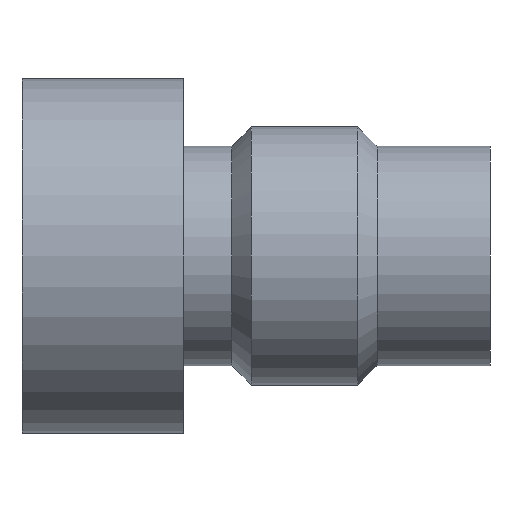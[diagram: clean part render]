
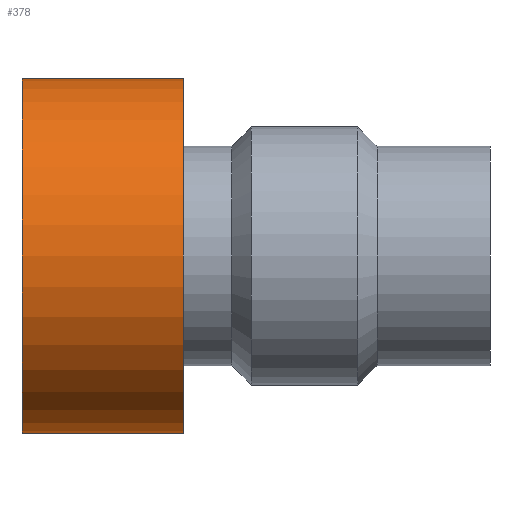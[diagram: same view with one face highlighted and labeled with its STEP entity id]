
A CAD part, front view. The second image highlights one B-rep face of the part: STEP entity #378.
In plain terms, the highlighted cylindrical face has radius 5.5 mm (diameter 11 mm), a partial arc.
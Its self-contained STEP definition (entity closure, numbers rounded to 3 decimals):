
#158 = FACE_OUTER_BOUND ( 'NONE', #671, .T. ) ;
#164 = AXIS2_PLACEMENT_3D ( 'NONE', #1194, #1195, #1196 ) ;
#165 = CYLINDRICAL_SURFACE ( 'NONE', #164, 5.5 ) ;
#217 = AXIS2_PLACEMENT_3D ( 'NONE', #1298, #1299, #1300 ) ;
#220 = VECTOR ( 'NONE', #1286, 1000. ) ;
#222 = AXIS2_PLACEMENT_3D ( 'NONE', #1292, #1296, #1297 ) ;
#223 = VECTOR ( 'NONE', #1295, 1000. ) ;
#378 = ADVANCED_FACE ( 'NONE', ( #158 ), #165, .T. ) ;
#406 = EDGE_CURVE ( 'NONE', #628, #629, #1284, .T. ) ;
#409 = EDGE_CURVE ( 'NONE', #627, #630, #1293, .T. ) ;
#410 = EDGE_CURVE ( 'NONE', #628, #627, #1510, .T. ) ;
#411 = EDGE_CURVE ( 'NONE', #629, #630, #1511, .T. ) ;
#627 = VERTEX_POINT ( 'NONE', #1343 ) ;
#628 = VERTEX_POINT ( 'NONE', #1344 ) ;
#629 = VERTEX_POINT ( 'NONE', #1345 ) ;
#630 = VERTEX_POINT ( 'NONE', #1346 ) ;
#671 = EDGE_LOOP ( 'NONE', ( #731, #733, #732, #734 ) ) ;
#731 = ORIENTED_EDGE ( 'NONE', *, *, #406, .F. ) ;
#732 = ORIENTED_EDGE ( 'NONE', *, *, #409, .T. ) ;
#733 = ORIENTED_EDGE ( 'NONE', *, *, #410, .T. ) ;
#734 = ORIENTED_EDGE ( 'NONE', *, *, #411, .F. ) ;
#1194 = CARTESIAN_POINT ( 'NONE',  ( -4.924, 0., 0. ) ) ;
#1195 = DIRECTION ( 'NONE',  ( -1., 0., 0. ) ) ;
#1196 = DIRECTION ( 'NONE',  ( 0., 0., 1. ) ) ;
#1284 = LINE ( 'NONE', #1285, #220 ) ;
#1285 = CARTESIAN_POINT ( 'NONE',  ( -4.924, 0., -5.5 ) ) ;
#1286 = DIRECTION ( 'NONE',  ( -1., 0., 0. ) ) ;
#1292 = CARTESIAN_POINT ( 'NONE',  ( 5., 0., 0. ) ) ;
#1293 = LINE ( 'NONE', #1294, #223 ) ;
#1294 = CARTESIAN_POINT ( 'NONE',  ( -4.924, 0., 5.5 ) ) ;
#1295 = DIRECTION ( 'NONE',  ( -1., 0., 0. ) ) ;
#1296 = DIRECTION ( 'NONE',  ( -1., 0., 0. ) ) ;
#1297 = DIRECTION ( 'NONE',  ( 0., 0., 1. ) ) ;
#1298 = CARTESIAN_POINT ( 'NONE',  ( 0., 0., 0. ) ) ;
#1299 = DIRECTION ( 'NONE',  ( -1., 0., 0. ) ) ;
#1300 = DIRECTION ( 'NONE',  ( 0., 0., 1. ) ) ;
#1343 = CARTESIAN_POINT ( 'NONE',  ( 5., 0., 5.5 ) ) ;
#1344 = CARTESIAN_POINT ( 'NONE',  ( 5., 0., -5.5 ) ) ;
#1345 = CARTESIAN_POINT ( 'NONE',  ( 0., 0., -5.5 ) ) ;
#1346 = CARTESIAN_POINT ( 'NONE',  ( 0., 0., 5.5 ) ) ;
#1510 = CIRCLE ( 'NONE', #222, 5.5 ) ;
#1511 = CIRCLE ( 'NONE', #217, 5.5 ) ;
